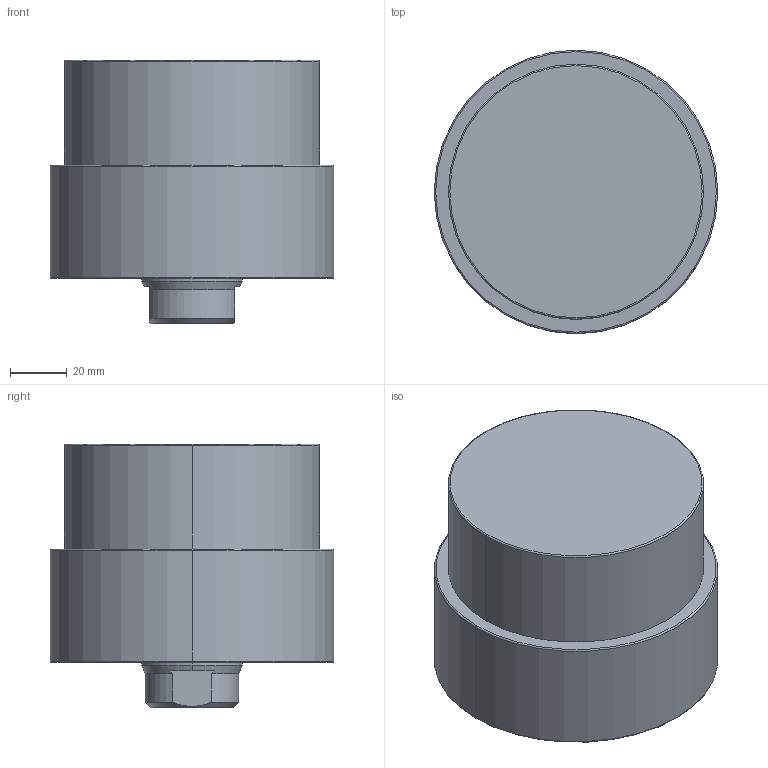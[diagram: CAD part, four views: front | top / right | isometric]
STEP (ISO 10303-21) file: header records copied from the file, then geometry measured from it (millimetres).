
FILE_DESCRIPTION (( 'STEP AP203' ), '1' );
FILE_NAME ('CLLU-090CA-(01-014).STEP', '2020-01-11T00:26:50', ( '' ), ( '' ), 'SwSTEP 2.0', 'SolidWorks 2015', '' );
FILE_SCHEMA (( 'CONFIG_CONTROL_DESIGN' ));
Length unit declared in the file: millimetre
Products named in the file (1): CLLU-090CA-(01-014)
Bounding box: 100 x 100 x 93 mm (x, y, z)
Volume: 545092.6 mm3; surface area: 45311 mm2
Topology: 1 solids, 1 shells, 62 faces, 140 edges, 79 vertices
Faces by surface type: cone 24, cylinder 22, plane 10, torus 6
Entity records: 1767 total; most frequent: DIRECTION 320, CARTESIAN_POINT 316, ORIENTED_EDGE 260, AXIS2_PLACEMENT_3D 135, EDGE_CURVE 130, VERTEX_POINT 79, CIRCLE 72, EDGE_LOOP 71
